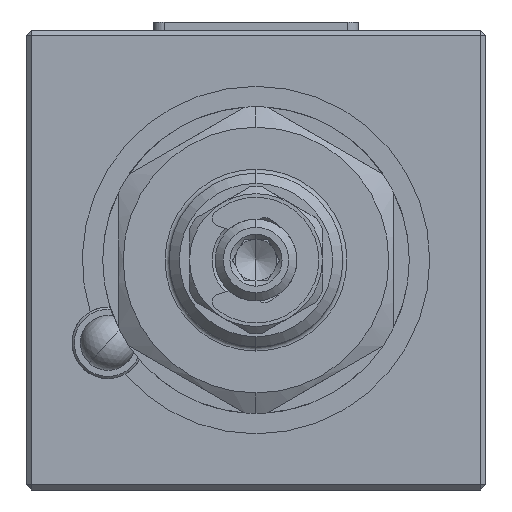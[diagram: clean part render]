
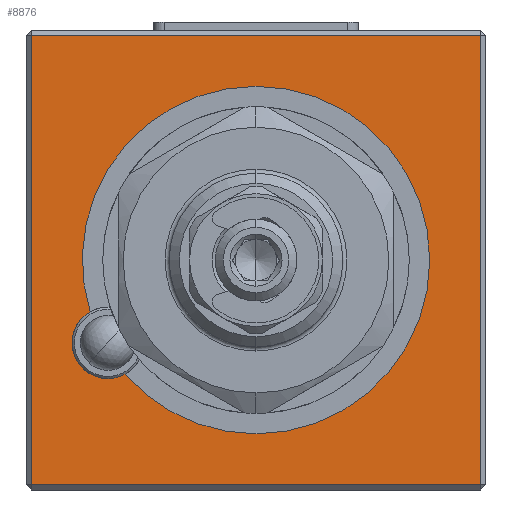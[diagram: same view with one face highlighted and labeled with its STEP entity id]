
A CAD part, left-side view. The second image highlights one B-rep face of the part: STEP entity #8876.
In plain terms, the highlighted planar face has unit normal (-1, 0, 0).
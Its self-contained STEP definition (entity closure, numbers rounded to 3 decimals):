
#147 = CIRCLE ( 'NONE', #12776, 17. ) ;
#220 = EDGE_CURVE ( 'NONE', #12559, #13479, #1951, .T. ) ;
#448 = VERTEX_POINT ( 'NONE', #4734 ) ;
#881 = DIRECTION ( 'NONE',  ( 0., 0., -1. ) ) ;
#1175 = PLANE ( 'NONE',  #12344 ) ;
#1361 = ORIENTED_EDGE ( 'NONE', *, *, #8290, .F. ) ;
#1505 = VERTEX_POINT ( 'NONE', #2732 ) ;
#1546 = ORIENTED_EDGE ( 'NONE', *, *, #4883, .F. ) ;
#1632 = VERTEX_POINT ( 'NONE', #7539 ) ;
#1711 = DIRECTION ( 'NONE',  ( 0., -1., 0. ) ) ;
#1746 = ORIENTED_EDGE ( 'NONE', *, *, #2276, .T. ) ;
#1951 = LINE ( 'NONE', #5047, #5605 ) ;
#2017 = VECTOR ( 'NONE', #1711, 1000. ) ;
#2164 = DIRECTION ( 'NONE',  ( 0., 0., 1. ) ) ;
#2276 = EDGE_CURVE ( 'NONE', #5211, #12559, #7316, .T. ) ;
#2281 = VECTOR ( 'NONE', #9693, 1000. ) ;
#2601 = CARTESIAN_POINT ( 'NONE',  ( 0., 0., 17. ) ) ;
#2732 = CARTESIAN_POINT ( 'NONE',  ( 0., 14.5, -11.6 ) ) ;
#2735 = VECTOR ( 'NONE', #12418, 1000. ) ;
#2789 = LINE ( 'NONE', #13709, #2017 ) ;
#2829 = DIRECTION ( 'NONE',  ( -1., 0., 0. ) ) ;
#2972 = CARTESIAN_POINT ( 'NONE',  ( 0., 14.5, -8.1 ) ) ;
#3036 = CIRCLE ( 'NONE', #10952, 17. ) ;
#3133 = CARTESIAN_POINT ( 'NONE',  ( 0., 0., 0. ) ) ;
#3253 = DIRECTION ( 'NONE',  ( 0., 0., 1. ) ) ;
#3599 = FACE_OUTER_BOUND ( 'NONE', #4061, .T. ) ;
#3803 = CIRCLE ( 'NONE', #6991, 3.5 ) ;
#3844 = CARTESIAN_POINT ( 'NONE',  ( 0., 22., -22. ) ) ;
#3902 = CARTESIAN_POINT ( 'NONE',  ( 0., 22.5, 22. ) ) ;
#3971 = CARTESIAN_POINT ( 'NONE',  ( 0., 0., 0. ) ) ;
#4061 = EDGE_LOOP ( 'NONE', ( #1746, #12968, #7304, #6221 ) ) ;
#4376 = EDGE_CURVE ( 'NONE', #1505, #12025, #3803, .T. ) ;
#4734 = CARTESIAN_POINT ( 'NONE',  ( 0., 16.23, -5.058 ) ) ;
#4773 = EDGE_CURVE ( 'NONE', #12885, #448, #3036, .T. ) ;
#4883 = EDGE_CURVE ( 'NONE', #448, #1505, #5532, .T. ) ;
#5045 = DIRECTION ( 'NONE',  ( -1., 0., 0. ) ) ;
#5047 = CARTESIAN_POINT ( 'NONE',  ( 0., 22., -22.5 ) ) ;
#5080 = CARTESIAN_POINT ( 'NONE',  ( 0., -22., -22. ) ) ;
#5211 = VERTEX_POINT ( 'NONE', #10430 ) ;
#5532 = CIRCLE ( 'NONE', #7556, 3.5 ) ;
#5605 = VECTOR ( 'NONE', #881, 1000. ) ;
#5619 = FACE_BOUND ( 'NONE', #8734, .T. ) ;
#5696 = CIRCLE ( 'NONE', #13533, 17. ) ;
#5757 = CARTESIAN_POINT ( 'NONE',  ( 0., 22.5, -22.5 ) ) ;
#6221 = ORIENTED_EDGE ( 'NONE', *, *, #6493, .T. ) ;
#6372 = LINE ( 'NONE', #10687, #2281 ) ;
#6493 = EDGE_CURVE ( 'NONE', #10986, #5211, #6372, .T. ) ;
#6741 = DIRECTION ( 'NONE',  ( -1., 0., 0. ) ) ;
#6991 = AXIS2_PLACEMENT_3D ( 'NONE', #2972, #2829, #8078 ) ;
#7304 = ORIENTED_EDGE ( 'NONE', *, *, #11015, .T. ) ;
#7316 = LINE ( 'NONE', #3902, #2735 ) ;
#7515 = DIRECTION ( 'NONE',  ( -1., 0., 0. ) ) ;
#7539 = CARTESIAN_POINT ( 'NONE',  ( 0., 0., -17. ) ) ;
#7556 = AXIS2_PLACEMENT_3D ( 'NONE', #12904, #9573, #3253 ) ;
#7605 = CARTESIAN_POINT ( 'NONE',  ( 0., 12.817, -11.169 ) ) ;
#8078 = DIRECTION ( 'NONE',  ( 0., 0., 1. ) ) ;
#8290 = EDGE_CURVE ( 'NONE', #12025, #1632, #147, .T. ) ;
#8505 = CARTESIAN_POINT ( 'NONE',  ( 0., 0., 0. ) ) ;
#8734 = EDGE_LOOP ( 'NONE', ( #1546, #13694, #10800, #1361, #9398 ) ) ;
#8876 = ADVANCED_FACE ( 'NONE', ( #3599, #5619 ), #1175, .T. ) ;
#9398 = ORIENTED_EDGE ( 'NONE', *, *, #4376, .F. ) ;
#9573 = DIRECTION ( 'NONE',  ( -1., 0., 0. ) ) ;
#9693 = DIRECTION ( 'NONE',  ( 0., 0., 1. ) ) ;
#10430 = CARTESIAN_POINT ( 'NONE',  ( 0., -22., 22. ) ) ;
#10687 = CARTESIAN_POINT ( 'NONE',  ( 0., -22., 22.5 ) ) ;
#10770 = DIRECTION ( 'NONE',  ( 0., 0., 1. ) ) ;
#10800 = ORIENTED_EDGE ( 'NONE', *, *, #11243, .F. ) ;
#10952 = AXIS2_PLACEMENT_3D ( 'NONE', #3971, #5045, #12490 ) ;
#10986 = VERTEX_POINT ( 'NONE', #5080 ) ;
#11015 = EDGE_CURVE ( 'NONE', #13479, #10986, #2789, .T. ) ;
#11243 = EDGE_CURVE ( 'NONE', #1632, #12885, #5696, .T. ) ;
#11877 = DIRECTION ( 'NONE',  ( 0., 0., 1. ) ) ;
#12025 = VERTEX_POINT ( 'NONE', #7605 ) ;
#12344 = AXIS2_PLACEMENT_3D ( 'NONE', #5757, #6741, #2164 ) ;
#12418 = DIRECTION ( 'NONE',  ( 0., 1., 0. ) ) ;
#12490 = DIRECTION ( 'NONE',  ( 0., 0., 1. ) ) ;
#12559 = VERTEX_POINT ( 'NONE', #13224 ) ;
#12776 = AXIS2_PLACEMENT_3D ( 'NONE', #3133, #12780, #11877 ) ;
#12780 = DIRECTION ( 'NONE',  ( -1., 0., 0. ) ) ;
#12885 = VERTEX_POINT ( 'NONE', #2601 ) ;
#12904 = CARTESIAN_POINT ( 'NONE',  ( 0., 14.5, -8.1 ) ) ;
#12968 = ORIENTED_EDGE ( 'NONE', *, *, #220, .T. ) ;
#13224 = CARTESIAN_POINT ( 'NONE',  ( 0., 22., 22. ) ) ;
#13479 = VERTEX_POINT ( 'NONE', #3844 ) ;
#13533 = AXIS2_PLACEMENT_3D ( 'NONE', #8505, #7515, #10770 ) ;
#13694 = ORIENTED_EDGE ( 'NONE', *, *, #4773, .F. ) ;
#13709 = CARTESIAN_POINT ( 'NONE',  ( 0., -22.5, -22. ) ) ;
